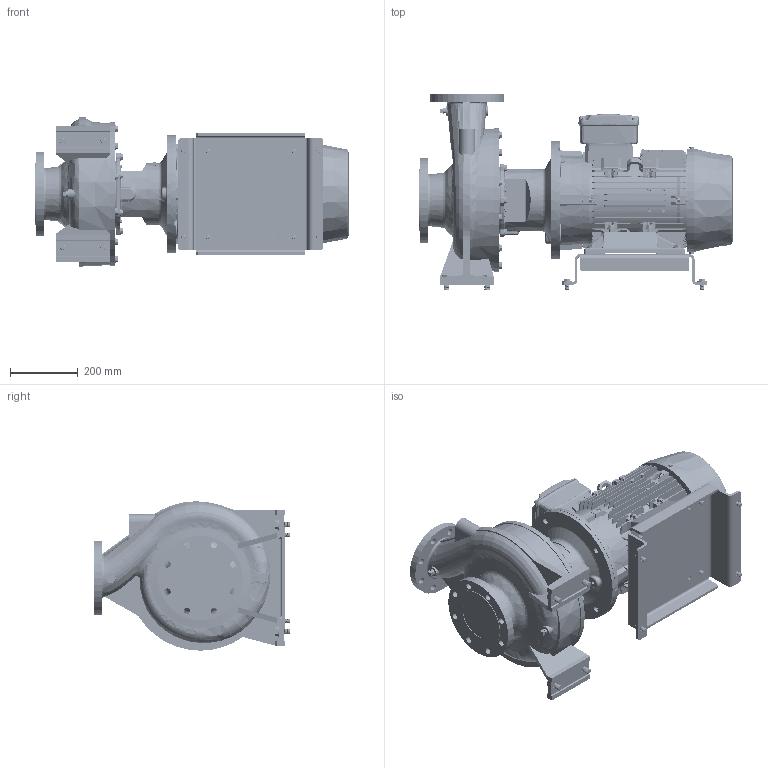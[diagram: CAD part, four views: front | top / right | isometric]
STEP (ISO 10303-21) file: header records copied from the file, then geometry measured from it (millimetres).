
FILE_DESCRIPTION (( 'STEP AP214' ), '1' );
FILE_NAME ('GSD4 100-315_11.0 & 15.0_(160ML)_W21.STEP', '2026-07-01T05:29:02', ( '' ), ( '' ), 'SwSTEP 2.0', 'SolidWorks 2024', '' );
FILE_SCHEMA (( 'AUTOMOTIVE_DESIGN' ));
Length unit declared in the file: millimetre
Products named in the file (12): Parametric Flat Washer_M12; 160M_L_ALIE3_W21T_B35; 100-315-160M_L_ﾃﾞﾌｫﾙﾄ; Parametric bolt and washer_SFT-A303B; Parametric bolt_SFT-A297B; Parametric bolt_SFT-A303B; GSD4 100-315_11.0 & 15.0_(160ML)_W21; Parametric bolt and washer_SFT-A297B; CGS11-5254; Parametric bolt and washer_SFT-A353B; Parametric Flat Washer_M16; Parametric bolt_SFT-A353B
Assembly tree (21 placements, depth 3):
  GSD4 100-315_11.0 & 15.0_(160ML)_W21
    100-315-160M_L_ﾃﾞﾌｫﾙﾄ
    CGS11-5254
    Parametric bolt and washer_SFT-A297B  x4
      Parametric bolt_SFT-A297B
      Parametric Flat Washer_M12
    Parametric bolt and washer_SFT-A353B  x4
      Parametric bolt_SFT-A353B
      Parametric Flat Washer_M16
    Parametric bolt and washer_SFT-A303B  x4
      Parametric bolt_SFT-A303B
      Parametric Flat Washer_M12
    160M_L_ALIE3_W21T_B35
Bounding box: 925.3 x 581 x 441.52 mm (x, y, z)
Volume: 60960077.7 mm3; surface area: 3670865.8 mm2
Topology: 63 solids, 69 shells, 6519 faces, 16816 edges, 10867 vertices
Faces by surface type: plane 3838, cylinder 1299, cone 633, bspline 496, torus 237, sphere 16
Entity records: 261926 total; most frequent: CARTESIAN_POINT 122658, ORIENTED_EDGE 30608, DIRECTION 25673, EDGE_CURVE 15304, VERTEX_POINT 9898, LINE 9557, VECTOR 9557, AXIS2_PLACEMENT_3D 8058
